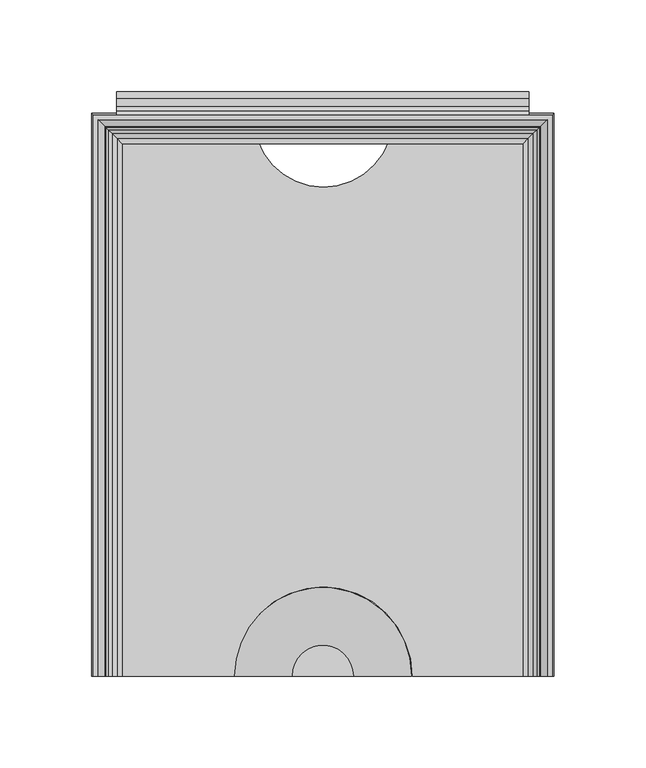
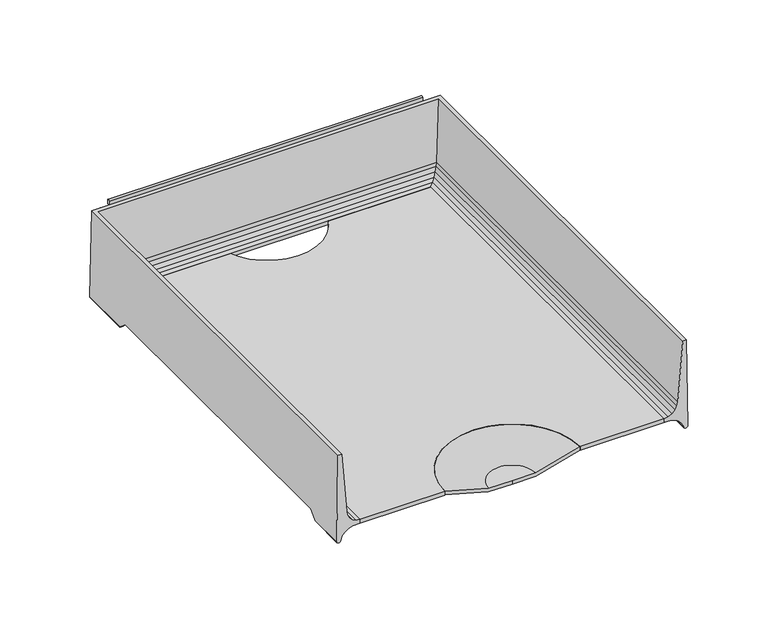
"""IFC4 building model written with IfcOpenShell, lengths in millimetres: furniture geometry."""

from ifc_helpers import new_model, si_unit, point, frame, frame_2d, origin, place, context, project, spatial, polyline, circle_curve, ellipse_curve, trimmed, segment, composite_curve, outline, extrude, source, transform, mapped, element, save
from ifc_brep_helpers import plane_surface, cylinder_surface, revolved_surface, advanced_brep


def furniture_9296cfee(model_context):
    return source(origin(), model_context, "Body", "SolidModel", [
        advanced_brep(
        [(126.0820502, -154.0206082, 858.5257489), (125.1325529, -154.0206082, 923.9251914), (122.4547921, -154.0206082, 923.9251914), (118.8379747, -154.0206082, 879.1381003), (118.4123648, -154.0206082, 876.4046052), (117.0774354, -154.0206082, 873.7035664), (114.9656457, -154.0206082, 871.5546015), (112.28832, -154.0206082, 870.1727261), (109.3133381, -154.0206082, 869.6962052), (109.3133381, -154.0206082, 866.8740971), (114.5666739, -154.0206082, 866.6810987), (117.605351, -154.0206082, 865.6247218), (120.2416, -154.0206082, 863.7808822), (122.2762142, -154.0206082, 861.2889079), (123.1625518, -154.0206082, 858.2456655), (126.0820502, -127.6379698, 858.5257489), (126.0026181, -121.5231874, 863.996872), (126.0026181, 109.0611937, 863.996872), (126.0820502, 115.1759816, 858.5257489), (126.0820502, 153.036442, 858.5257489), (125.1325529, 152.0869447, 923.9251914), (-125.1325529, 152.0869447, 923.9251914), (-125.1325529, -154.0206082, 923.9251914), (-122.4547921, -154.0206082, 923.9251914), (-122.4547921, 149.4091839, 923.9251914), (122.4547921, 149.4091839, 923.9251914), (118.8379747, 145.7923665, 879.1381003), (118.4123648, 145.3667566, 876.4046052), (117.0774354, 144.0318272, 873.7035664), (114.9656457, 141.9200375, 871.5546015), (112.28832, 139.2427118, 870.1727261), (109.3133381, 136.2677299, 869.6962052), (109.3133381, 136.2677299, 866.8740971), (114.5666739, 141.5210656, 866.6810987), (117.605351, 144.5597428, 865.6247218), (120.2416, 147.1959918, 863.7808822), (120.2416, 109.3025941, 863.7808822), (119.9327864, 109.0611937, 863.996872), (119.9327864, -121.5231874, 863.996872), (120.2416, -121.7645876, 863.7808822), (122.2762142, -124.5497344, 861.2889079), (122.2762142, 149.230606, 861.2889079), (122.2762142, 112.0877435, 861.2889079), (123.1625518, -127.9510041, 858.2456655), (123.1625518, 150.1169436, 858.2456655), (123.1625518, 115.4890162, 858.2456655), (-126.0820502, 153.036442, 858.5257489), (-118.8379747, 145.7923665, 879.1381003), (-118.4123648, 145.3667566, 876.4046052), (-117.0774354, 144.0318272, 873.7035664), (-114.9656457, 141.9200375, 871.5546015), (-112.28832, 139.2427118, 870.1727261), (-109.3133381, 136.2677299, 869.6962052), (-109.3133381, 136.2677299, 866.8740971), (-114.5666739, 141.5210656, 866.6810987), (-117.605351, 144.5597428, 865.6247218), (-120.2416, 147.1959918, 863.7808822), (-122.2762142, 149.230606, 861.2889079), (-123.1625518, 150.1169436, 858.2456655), (-126.0820502, -154.0206082, 858.5257489), (-123.1625518, -154.0206082, 858.2456655), (-122.2762142, -154.0206082, 861.2889079), (-120.2416, -154.0206082, 863.7808822), (-117.605351, -154.0206082, 865.6247218), (-114.5666739, -154.0206082, 866.6810987), (-109.3133381, -154.0206082, 866.8740971), (-109.3133381, -154.0206082, 869.6962052), (-112.28832, -154.0206082, 870.1727261), (-114.9656457, -154.0206082, 871.5546015), (-117.0774354, -154.0206082, 873.7035664), (-118.4123648, -154.0206082, 876.4046052), (-118.8379747, -154.0206082, 879.1381003), (-126.0820502, 115.1759816, 858.5257489), (-126.0026181, 109.0611937, 863.996872), (-126.0026181, -121.5231874, 863.996872), (-126.0820502, -127.6379698, 858.5257489), (-120.2416, -121.7645876, 863.7808822), (-119.9327864, -121.5231874, 863.996872), (-119.9327864, 109.0611937, 863.996872), (-120.2416, 109.3025941, 863.7808822), (-122.2762142, 112.0877435, 861.2889079), (-122.2762142, -124.5497344, 861.2889079), (-123.1625518, 115.4890162, 858.2456655), (-123.1625518, -127.9510041, 858.2456655)],
        [
            (0, 1),
            (1, 2),
            (2, 3),
            (3, 4),
            (4, 5),
            (5, 6),
            (6, 7),
            (7, 8),
            (8, 9),
            (9, 10),
            (10, 11),
            (11, 12),
            (12, 13),
            (13, 14),
            (14, 0, circle_curve(frame((124.5859452, -154.0206082, 858.7646685), z_axis=(0.0, -1.0, 0.0), x_axis=(-1.0, 0.0, 0.0)), 1.515062)),
            (0, 15),
            (15, 16),
            (16, 17),
            (17, 18),
            (18, 19),
            (19, 20),
            (20, 1),
            (20, 21),
            (21, 22),
            (22, 23),
            (23, 24),
            (24, 25),
            (25, 2),
            (25, 26),
            (26, 3),
            (26, 27),
            (27, 4),
            (27, 28),
            (28, 5),
            (28, 29),
            (29, 6),
            (29, 30),
            (30, 7),
            (30, 31),
            (31, 8),
            (31, 32),
            (32, 9),
            (32, 33),
            (33, 10),
            (33, 34),
            (34, 11),
            (34, 35),
            (35, 36),
            (36, 37),
            (37, 38),
            (38, 39),
            (39, 12),
            (39, 40),
            (40, 13),
            (35, 41),
            (41, 42),
            (42, 36),
            (40, 43),
            (43, 14),
            (41, 44),
            (44, 45),
            (45, 42),
            (43, 15, ellipse_curve(frame((124.5859452, -127.3709422, 858.7646685), z_axis=(0.0, -0.6667949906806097, 0.7452411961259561), x_axis=(0.0, -0.7452411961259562, -0.6667949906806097)), 2.2721556, 1.515062)),
            (44, 19, ellipse_curve(frame((124.5859452, 151.540337, 858.7646685), z_axis=(0.7071067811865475, -0.7071067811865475, 0.0), x_axis=(-0.7071067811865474, -0.7071067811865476, 0.0)), 2.1426212, 1.515062)),
            (18, 45, ellipse_curve(frame((124.5859452, 114.9089538, 858.7646685), z_axis=(0.0, 0.6667946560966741, 0.7452414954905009), x_axis=(0.0, -0.7452414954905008, 0.6667946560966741)), 2.2721567, 1.515062)),
            (19, 46),
            (46, 21),
            (24, 47),
            (47, 26),
            (47, 48),
            (48, 27),
            (48, 49),
            (49, 28),
            (49, 50),
            (50, 29),
            (50, 51),
            (51, 30),
            (51, 52),
            (52, 31),
            (52, 53),
            (53, 32),
            (53, 54),
            (54, 33),
            (54, 55),
            (55, 34),
            (55, 56),
            (56, 35),
            (56, 57),
            (57, 41),
            (57, 58),
            (58, 44),
            (58, 46, ellipse_curve(frame((-124.5859452, 151.540337, 858.7646685), z_axis=(0.7071067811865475, 0.7071067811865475, 0.0), x_axis=(0.7071067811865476, -0.7071067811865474, 0.0)), 2.1426212, 1.515062)),
            (22, 59),
            (59, 60, circle_curve(frame((-124.5859452, -154.0206082, 858.7646685), z_axis=(0.0, -1.0, 0.0), x_axis=(1.0, 0.0, 0.0)), 1.515062)),
            (60, 61),
            (61, 62),
            (62, 63),
            (63, 64),
            (64, 65),
            (65, 66),
            (66, 67),
            (67, 68),
            (68, 69),
            (69, 70),
            (70, 71),
            (71, 23),
            (46, 72),
            (72, 73),
            (73, 74),
            (74, 75),
            (75, 59),
            (71, 47),
            (70, 48),
            (69, 49),
            (68, 50),
            (67, 51),
            (66, 52),
            (65, 53),
            (64, 54),
            (63, 55),
            (62, 76),
            (76, 77),
            (77, 78),
            (78, 79),
            (79, 56),
            (79, 80),
            (80, 57),
            (61, 81),
            (81, 76),
            (80, 82),
            (82, 58),
            (60, 83),
            (83, 81),
            (82, 72, ellipse_curve(frame((-124.5859452, 114.9089538, 858.7646685), z_axis=(0.0, 0.6667946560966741, 0.7452414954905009), x_axis=(0.0, 0.7452414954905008, -0.6667946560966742)), 2.2721567, 1.515062)),
            (75, 83, ellipse_curve(frame((-124.5859452, -127.3709422, 858.7646685), z_axis=(0.0, -0.6667949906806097, 0.7452411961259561), x_axis=(0.0, 0.745241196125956, 0.6667949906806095)), 2.2721556, 1.515062)),
            (38, 16),
            (74, 77),
            (37, 17),
            (73, 78),
        ],
        [
            plane_surface(frame((127.0, -154.0206082, 857.25), z_axis=(0.0, -1.0, 0.0), x_axis=(0.0, 0.0, 1.0))),
            plane_surface(frame((126.0820502, -154.0206082, 858.5257489), z_axis=(0.9998946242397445, 0.0, 0.014516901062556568), x_axis=(0.0, 1.0, 0.0))),
            plane_surface(frame((125.1325529, -154.0206082, 923.9251914), z_axis=(0.0, 0.0, 1.0), x_axis=(0.0, 1.0, 0.0))),
            plane_surface(frame((122.4547921, -154.0206082, 923.9251914), z_axis=(-0.9967551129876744, 0.0, 0.08049375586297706), x_axis=(0.0, 1.0, 0.0))),
            plane_surface(frame((118.8379747, -154.0206082, 879.1381003), z_axis=(-0.9880945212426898, 0.0, 0.15384803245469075), x_axis=(0.0, 1.0, 0.0))),
            plane_surface(frame((118.4123648, -154.0206082, 876.4046052), z_axis=(-0.8964873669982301, 0.0, 0.44306929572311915), x_axis=(0.0, 1.0, 0.0))),
            plane_surface(frame((117.0774354, -154.0206082, 873.7035664), z_axis=(-0.7132491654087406, 0.0, 0.7009105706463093), x_axis=(0.0, 1.0, 0.0))),
            plane_surface(frame((114.9656457, -154.0206082, 871.5546015), z_axis=(-0.45865074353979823, 0.0, 0.8886166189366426), x_axis=(0.0, 1.0, 0.0))),
            plane_surface(frame((112.28832, -154.0206082, 870.1727261), z_axis=(-0.15816001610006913, 0.0, 0.987413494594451), x_axis=(0.0, 1.0, 0.0))),
            plane_surface(frame((109.3133381, -154.0206082, 869.6962052), z_axis=(-1.0, 0.0, 0.0), x_axis=(0.0, 1.0, 0.0))),
            plane_surface(frame((109.3133381, -154.0206082, 866.8740971), z_axis=(-0.036713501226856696, 0.0, -0.9993258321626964), x_axis=(0.0, 1.0, 0.0))),
            plane_surface(frame((114.5666739, -154.0206082, 866.6810987), z_axis=(-0.3283669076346, 0.0, -0.9445502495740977), x_axis=(0.0, 1.0, 0.0))),
            plane_surface(frame((117.605351, -154.0206082, 865.6247218), z_axis=(-0.5731421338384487, 0.0, -0.819455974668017), x_axis=(0.0, 1.0, 0.0))),
            plane_surface(frame((120.2416, -154.0206082, 863.7808822), z_axis=(-0.77460799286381, 0.0, -0.6324416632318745), x_axis=(0.0, 1.0, 0.0))),
            plane_surface(frame((122.2762142, -154.0206082, 861.2889079), z_axis=(-0.9601080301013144, 0.0, -0.2796293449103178), x_axis=(0.0, 1.0, 0.0))),
            cylinder_surface(frame((124.5859452, -154.0206082, 858.7646685), z_axis=(0.0, -1.0, 0.0), x_axis=(-1.0, 0.0, 0.0)), 1.515062),
            plane_surface(frame((126.0820502, 153.036442, 858.5257489), z_axis=(0.0, 0.9998946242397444, 0.014516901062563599), x_axis=(-1.0, 0.0, 0.0))),
            plane_surface(frame((122.4547921, 149.4091839, 923.9251914), z_axis=(0.0, -0.9967551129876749, 0.08049375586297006), x_axis=(-1.0, 0.0, 0.0))),
            plane_surface(frame((118.8379747, 145.7923665, 879.1381003), z_axis=(0.0, -0.9880945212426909, 0.15384803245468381), x_axis=(-1.0, 0.0, 0.0))),
            plane_surface(frame((118.4123648, 145.3667566, 876.4046052), z_axis=(0.0, -0.8964873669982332, 0.4430692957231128), x_axis=(-1.0, 0.0, 0.0))),
            plane_surface(frame((117.0774354, 144.0318272, 873.7035664), z_axis=(0.0, -0.7132491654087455, 0.7009105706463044), x_axis=(-1.0, 0.0, 0.0))),
            plane_surface(frame((114.9656457, 141.9200375, 871.5546015), z_axis=(0.0, -0.4586507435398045, 0.8886166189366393), x_axis=(-1.0, 0.0, 0.0))),
            plane_surface(frame((112.28832, 139.2427118, 870.1727261), z_axis=(0.0, -0.15816001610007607, 0.9874134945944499), x_axis=(-1.0, 0.0, 0.0))),
            plane_surface(frame((109.3133381, 136.2677299, 869.6962052), z_axis=(0.0, -1.0, 0.0), x_axis=(-1.0, 0.0, 0.0))),
            plane_surface(frame((109.3133381, 136.2677299, 866.8740971), z_axis=(0.0, -0.03671350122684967, -0.9993258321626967), x_axis=(-1.0, 0.0, 0.0))),
            plane_surface(frame((114.5666739, 141.5210656, 866.6810987), z_axis=(0.0, -0.32836690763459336, -0.9445502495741), x_axis=(-1.0, 0.0, 0.0))),
            plane_surface(frame((117.605351, 144.5597428, 865.6247218), z_axis=(0.0, -0.5731421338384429, -0.819455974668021), x_axis=(-1.0, 0.0, 0.0))),
            plane_surface(frame((120.2416, 147.1959918, 863.7808822), z_axis=(0.0, -0.7746079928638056, -0.6324416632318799), x_axis=(-1.0, 0.0, 0.0))),
            plane_surface(frame((122.2762142, 149.230606, 861.2889079), z_axis=(0.0, -0.9601080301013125, -0.27962934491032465), x_axis=(-1.0, 0.0, 0.0))),
            cylinder_surface(frame((127.0, 151.540337, 858.7646685), z_axis=(1.0, 0.0, 0.0), x_axis=(0.0, -1.0, 0.0)), 1.515062),
            plane_surface(frame((-127.0, -154.0206082, 857.25), z_axis=(0.0, -1.0, 0.0), x_axis=(0.0, 0.0, 1.0))),
            plane_surface(frame((-126.0820502, 153.036442, 858.5257489), z_axis=(-0.9998946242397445, 0.0, 0.014516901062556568), x_axis=(0.0, -1.0, 0.0))),
            plane_surface(frame((-122.4547921, 149.4091839, 923.9251914), z_axis=(0.9967551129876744, 0.0, 0.08049375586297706), x_axis=(0.0, -1.0, 0.0))),
            plane_surface(frame((-118.8379747, 145.7923665, 879.1381003), z_axis=(0.9880945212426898, 0.0, 0.15384803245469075), x_axis=(0.0, -1.0, 0.0))),
            plane_surface(frame((-118.4123648, 145.3667566, 876.4046052), z_axis=(0.8964873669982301, 0.0, 0.44306929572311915), x_axis=(0.0, -1.0, 0.0))),
            plane_surface(frame((-117.0774354, 144.0318272, 873.7035664), z_axis=(0.7132491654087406, 0.0, 0.7009105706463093), x_axis=(0.0, -1.0, 0.0))),
            plane_surface(frame((-114.9656457, 141.9200375, 871.5546015), z_axis=(0.45865074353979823, 0.0, 0.8886166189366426), x_axis=(0.0, -1.0, 0.0))),
            plane_surface(frame((-112.28832, 139.2427118, 870.1727261), z_axis=(0.15816001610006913, 0.0, 0.987413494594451), x_axis=(0.0, -1.0, 0.0))),
            plane_surface(frame((-109.3133381, 136.2677299, 869.6962052), z_axis=(1.0, 0.0, 0.0), x_axis=(0.0, -1.0, 0.0))),
            plane_surface(frame((-109.3133381, 136.2677299, 866.8740971), z_axis=(0.036713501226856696, 0.0, -0.9993258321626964), x_axis=(0.0, -1.0, 0.0))),
            plane_surface(frame((-114.5666739, 141.5210656, 866.6810987), z_axis=(0.3283669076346, 0.0, -0.9445502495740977), x_axis=(0.0, -1.0, 0.0))),
            plane_surface(frame((-117.605351, 144.5597428, 865.6247218), z_axis=(0.5731421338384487, 0.0, -0.819455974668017), x_axis=(0.0, -1.0, 0.0))),
            plane_surface(frame((-120.2416, 147.1959918, 863.7808822), z_axis=(0.77460799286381, 0.0, -0.6324416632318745), x_axis=(0.0, -1.0, 0.0))),
            plane_surface(frame((-122.2762142, 149.230606, 861.2889079), z_axis=(0.9601080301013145, 0.0, -0.2796293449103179), x_axis=(0.0, -1.0, 0.0))),
            cylinder_surface(frame((-124.5859452, 153.9543918, 858.7646685), z_axis=(0.0, 1.0, 0.0), x_axis=(1.0, 0.0, 0.0)), 1.515062),
            plane_surface(frame((-127.0, -130.1695728, 856.2606296), z_axis=(0.0, 0.6667949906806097, -0.7452411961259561), x_axis=(1.0, 0.0, 0.0))),
            plane_surface(frame((-127.0, -121.5231874, 863.996872), z_axis=(0.0, 0.0, -1.0), x_axis=(1.0, 0.0, 0.0))),
            plane_surface(frame((-127.0, 109.0611937, 863.996872), z_axis=(0.0, -0.6667946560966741, -0.7452414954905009), x_axis=(1.0, 0.0, 0.0))),
        ],
        [
            (0, [[1, 2, 3, 4, 5, 6, 7, 8, 9, 10, 11, 12, 13, 14, 15]]),
            (1, [[-1, 16, 17, 18, 19, 20, 21, 22]]),
            (2, [[-2, -22, 23, 24, 25, 26, 27, 28]]),
            (3, [[-3, -28, 29, 30]]),
            (4, [[-4, -30, 31, 32]]),
            (5, [[-5, -32, 33, 34]]),
            (6, [[-6, -34, 35, 36]]),
            (7, [[-7, -36, 37, 38]]),
            (8, [[-8, -38, 39, 40]]),
            (9, [[-9, -40, 41, 42]]),
            (10, [[-10, -42, 43, 44]]),
            (11, [[-11, -44, 45, 46]]),
            (12, [[-12, -46, 47, 48, 49, 50, 51, 52]]),
            (13, [[-13, -52, 53, 54]]),
            (13, [[55, 56, 57, -48]]),
            (14, [[-14, -54, 58, 59]]),
            (14, [[60, 61, 62, -56]]),
            (15, [[-15, -59, 63, -16]]),
            (15, [[64, -20, 65, -61]]),
            (16, [[-21, 66, 67, -23]]),
            (17, [[-27, 68, 69, -29]]),
            (18, [[-31, -69, 70, 71]]),
            (19, [[-33, -71, 72, 73]]),
            (20, [[-35, -73, 74, 75]]),
            (21, [[-37, -75, 76, 77]]),
            (22, [[-39, -77, 78, 79]]),
            (23, [[-41, -79, 80, 81]]),
            (24, [[-43, -81, 82, 83]]),
            (25, [[-45, -83, 84, 85]]),
            (26, [[-47, -85, 86, 87]]),
            (27, [[-55, -87, 88, 89]]),
            (28, [[-60, -89, 90, 91]]),
            (29, [[-64, -91, 92, -66]]),
            (30, [[-25, 93, 94, 95, 96, 97, 98, 99, 100, 101, 102, 103, 104, 105, 106]]),
            (31, [[-24, -67, 107, 108, 109, 110, 111, -93]]),
            (32, [[-26, -106, 112, -68]]),
            (33, [[-70, -112, -105, 113]]),
            (34, [[-72, -113, -104, 114]]),
            (35, [[-74, -114, -103, 115]]),
            (36, [[-76, -115, -102, 116]]),
            (37, [[-78, -116, -101, 117]]),
            (38, [[-80, -117, -100, 118]]),
            (39, [[-82, -118, -99, 119]]),
            (40, [[-84, -119, -98, 120]]),
            (41, [[-86, -120, -97, 121, 122, 123, 124, 125]]),
            (42, [[-88, -125, 126, 127]]),
            (42, [[-96, 128, 129, -121]]),
            (43, [[-90, -127, 130, 131]]),
            (43, [[-95, 132, 133, -128]]),
            (44, [[-92, -131, 134, -107]]),
            (44, [[-94, -111, 135, -132]]),
            (45, [[136, -17, -63, -58, -53, -51]]),
            (45, [[137, -122, -129, -133, -135, -110]]),
            (46, [[-136, -50, 138, -18]]),
            (46, [[-137, -109, 139, -123]]),
            (47, [[-138, -49, -57, -62, -65, -19]]),
            (47, [[-139, -108, -134, -130, -126, -124]]),
        ],
    ),
        extrude(outline(composite_curve([segment(polyline([(-109.3647805, 138.2769393), (-35.6610422, 138.2769393)]), True, "CONTINUOUS"), segment(trimmed(circle_curve(frame_2d((0.3369133, 150.6584166)), 38.0677525), [point((-35.6610422, 138.2769393))], [point((36.3348688, 138.2769393))], True, "CARTESIAN"), True, "CONTINUOUS"), segment(polyline([(36.3348688, 138.2769393), (109.6504969, 138.2769393), (109.6504969, -153.9875), (48.9112184, -153.9875)]), True, "CONTINUOUS"), segment(trimmed(circle_curve(frame_2d((0.2842795, -153.9323196)), 48.6269702), [point((48.9112184, -153.9875))], [point((-48.3426595, -153.9875))], True, "CARTESIAN"), True, "CONTINUOUS"), segment(polyline([(-48.3426595, -153.9875), (-109.3647805, -153.9875), (-109.3647805, 138.2769393)]), True, "CONTINUOUS")], self_intersect=False)), frame((0.0, 0.0, 866.8564677), z_axis=(0.0, 0.0, 1.0), x_axis=(1.0, 0.0, 0.0)), (0.0, 0.0, 1.0), 2.8395461),
        extrude(outline(composite_curve([segment(trimmed(circle_curve(frame_2d((162.7186949, 908.0957343)), 1.9049988), [point((164.6236937, 908.0957343))], [point((160.8136962, 908.0957343))], False, "CARTESIAN"), True, "CONTINUOUS"), segment(polyline([(160.8136962, 908.0957343), (160.8136962, 911.5247311), (160.0516969, 912.2867303), (156.4380325, 912.2867303), (152.1427596, 909.9393331), (152.1427596, 918.4441285), (156.4380325, 916.0967312), (160.8136928, 916.0967312)]), True, "CONTINUOUS"), segment(trimmed(circle_curve(frame_2d((160.8136928, 912.2867303)), 3.8100009), [point((160.8136928, 916.0967312))], [point((164.6236937, 912.2867303))], False, "CARTESIAN"), True, "CONTINUOUS"), segment(polyline([(164.6236937, 912.2867303), (164.6236937, 908.0957343)]), True, "CONTINUOUS")], self_intersect=False)), frame((-112.5397809, 0.0, 0.0), z_axis=(1.0, 0.0, 0.0), x_axis=(0.0, 1.0, 0.0)), (0.0, 0.0, 1.0), 225.0795617),
        advanced_brep(
        [(-16.8929028, -153.9875, 860.821875), (-48.4614622, -153.9875, 869.7295432), (-48.4614622, -153.9875, 867.1380018), (-16.9249292, -153.9875, 858.2393704), (0.0, -153.9875, 858.2393704), (0.0, -153.9875, 860.821875), (16.8929028, -153.9875, 860.821875), (16.9249292, -153.9875, 858.2393704), (48.4614622, -153.9875, 867.1380018), (48.4614622, -153.9875, 869.7295432)],
        [
            (0, 1),
            (1, 2),
            (2, 3),
            (3, 4),
            (4, 5),
            (5, 0),
            (6, 5),
            (4, 7),
            (7, 8),
            (8, 9),
            (9, 6),
            (9, 1, circle_curve(frame((0.0, -153.9875, 869.7295432), z_axis=(0.0, 0.0, 1.0), x_axis=(-1.0, 0.0, 0.0)), 48.4614622)),
            (0, 6, circle_curve(frame((0.0, -153.9875, 860.821875), z_axis=(0.0, 0.0, -1.0), x_axis=(-1.0, 0.0, 0.0)), 16.8929028)),
            (8, 2, circle_curve(frame((0.0, -153.9875, 867.1380018), z_axis=(0.0, 0.0, 1.0), x_axis=(-1.0, 0.0, 0.0)), 48.4614622)),
            (7, 3, circle_curve(frame((0.0, -153.9875, 858.2393704), z_axis=(0.0, 0.0, 1.0), x_axis=(-1.0, 0.0, 0.0)), 16.9249292)),
        ],
        [
            plane_surface(frame((0.0, -153.9875, 857.25), z_axis=(0.0, -1.0, 0.0), x_axis=(-1.0, 0.0, 0.0))),
            plane_surface(frame((0.0, -153.9875, 857.25), z_axis=(0.0, -1.0, 0.0), x_axis=(1.0, 0.0, 0.0))),
            revolved_surface(polyline([(-48.4614622, -153.9875, 869.7295432), (-16.8929028, -153.9875, 860.821875)]), (0.0, -153.9875, 857.25), (0.0, 0.0, 1.0)),
            cylinder_surface(frame((0.0, -153.9875, 857.25), z_axis=(0.0, 0.0, 1.0), x_axis=(-1.0, 0.0, 0.0)), 48.4614622),
            revolved_surface(polyline([(-16.9249292, -153.9875, 858.2393704), (-48.4614622, -153.9875, 867.1380018)]), (0.0, -153.9875, 857.25), (0.0, 0.0, 1.0)),
            plane_surface(frame((0.0, -153.9875, 858.2393704), z_axis=(0.0, 0.0, -1.0), x_axis=(-1.0, 0.0, 0.0))),
            plane_surface(frame((0.0, -153.9875, 860.821875), z_axis=(0.0, 0.0, 1.0), x_axis=(-1.0, 0.0, 0.0))),
        ],
        [
            (0, [[1, 2, 3, 4, 5, 6]]),
            (1, [[7, -5, 8, 9, 10, 11]]),
            (2, [[12, -1, 13, -11]]),
            (3, [[14, -2, -12, -10]]),
            (4, [[15, -3, -14, -9]]),
            (5, [[-4, -15, -8]]),
            (6, [[-13, -6, -7]]),
        ],
    ),
        extrude(outline(composite_curve([segment(polyline([(153.9875, 923.925), (152.1427596, 923.925), (152.1427596, 926.7565333)]), True, "CONTINUOUS"), segment(trimmed(circle_curve(frame_2d((153.0651298, 926.4512665)), 0.9715733), [point((152.1427596, 926.7565333))], [point((153.9875, 926.7565333))], False, "CARTESIAN"), True, "CONTINUOUS"), segment(polyline([(153.9875, 926.7565333), (153.9875, 923.925)]), True, "CONTINUOUS")], self_intersect=False)), frame((-112.5397809, 0.0, 0.0), z_axis=(1.0, 0.0, 0.0), x_axis=(0.0, 1.0, 0.0)), (0.0, 0.0, 1.0), 225.0795617),
    ])


if __name__ == "__main__":
    model = new_model("IFC4")
    model_context = context("Model", 3, world=origin())
    ifc_project = project(units=[si_unit("LENGTHUNIT", "METRE", prefix="MILLI")], contexts=[model_context])
    site = spatial("IfcSite", under=ifc_project)
    building = spatial("IfcBuilding", under=site)
    placement = place(None, origin())
    furniture_shape = furniture_9296cfee(model_context)
    element("IfcFurniture", 1, ObjectType="HermanMiller_ThrivePortfolio_Y7216_PaperTray : 3\"H x 12\"D x 10\"W", at=placement, inside=building, context=model_context, shape_type="MappedRepresentation", body=[
        mapped(furniture_shape, transform((0.0, 0.0, 0.0), x_axis=(1.0, 0.0, 0.0), y_axis=(0.0, 1.0, 0.0), z_axis=(0.0, 0.0, 1.0))),
    ])
    save(model, "model.ifc")
